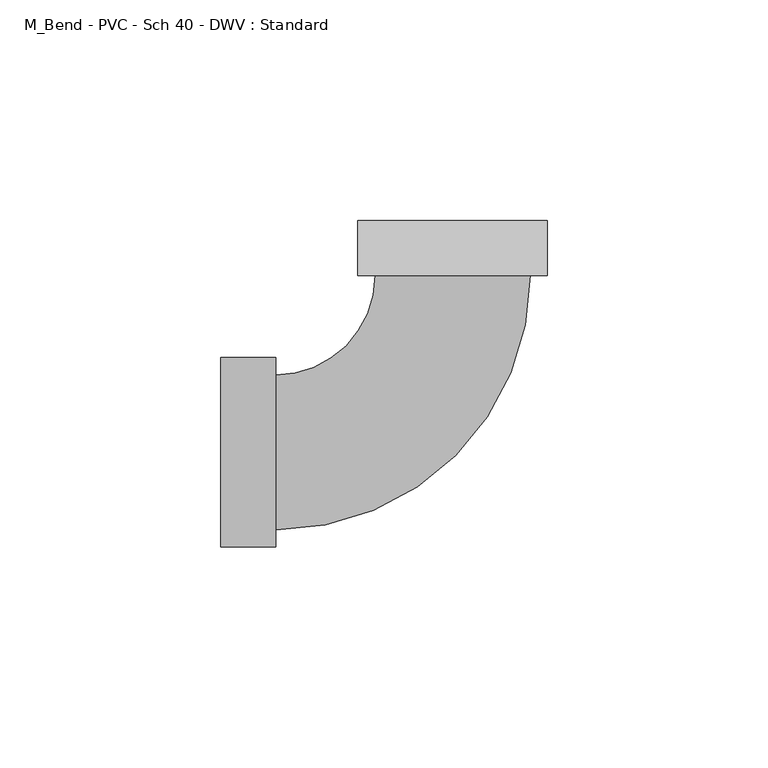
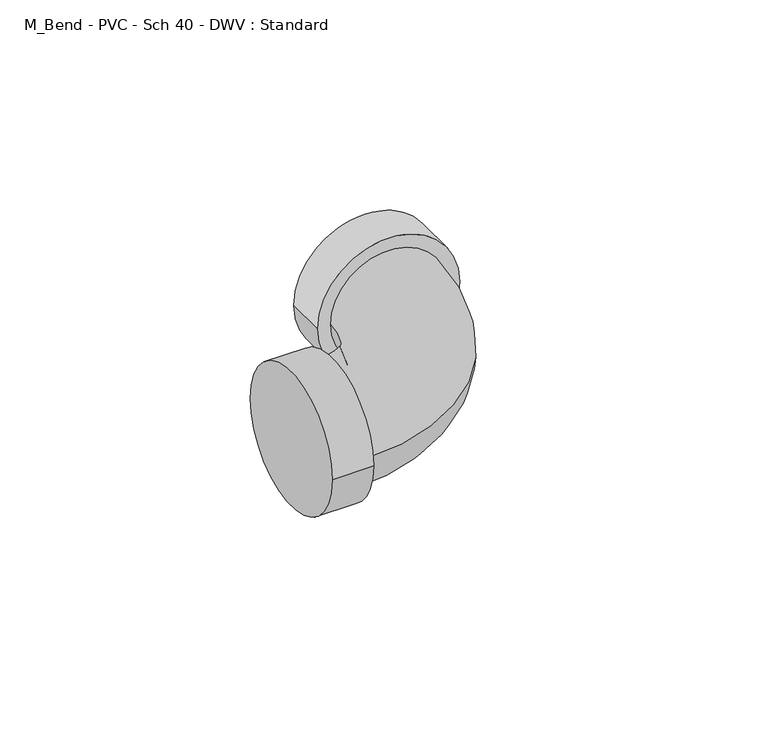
"""IFC4 building model written with IfcOpenShell, lengths in millimetres: pipe fitting geometry, M_Bend - PVC - Sch 40 - DWV : Standard."""

from ifc_helpers import new_model, si_unit, point, frame, origin, place, context, project, spatial, circle_curve, ellipse_curve, trimmed, source, transform, mapped, element, save
from ifc_brep_helpers import plane_surface, cylinder_surface, revolved_surface, advanced_brep


def m_bend_pvc_sch_40_dwv_standard_f7713f3f(model_context):
    return source(origin(), model_context, "Body", "AdvancedBrep", [
        advanced_brep(
        [(-52.6140625, -21.4871094, 0.0), (-52.6140625, 21.4871094, 0.0), (-40.1140625, -21.4871094, 0.0), (-40.1140625, 21.4871094, 0.0), (-40.1140625, -17.5640625, 0.0), (-40.1140625, 17.5640625, 0.0), (-17.5639173, 40.1141261, 0.0), (17.5642077, 40.1139989, 0.0), (21.4872546, 40.1139847, 0.0), (-21.4869642, 40.1141403, 0.0), (21.4872998, 52.6139847, 0.0), (-21.4869189, 52.6141403, 0.0)],
        [
            (0, 1, circle_curve(frame((-52.6140625, 0.0, 0.0), z_axis=(-1.0, 0.0, 0.0), x_axis=(0.0, 1.0, 0.0)), 21.4871094)),
            (1, 0, circle_curve(frame((-52.6140625, 0.0, 0.0), z_axis=(-1.0, 0.0, 0.0), x_axis=(0.0, 1.0, 0.0)), 21.4871094)),
            (2, 3, circle_curve(frame((-40.1140625, 0.0, 0.0), z_axis=(1.0, 0.0, 0.0), x_axis=(0.0, 1.0, 0.0)), 21.4871094)),
            (3, 2, circle_curve(frame((-40.1140625, 0.0, 0.0), z_axis=(1.0, 0.0, 0.0), x_axis=(0.0, 1.0, 0.0)), 21.4871094)),
            (4, 5, circle_curve(frame((-40.1140625, 0.0, 0.0), z_axis=(-1.0, 0.0, 0.0), x_axis=(0.0, 1.0, 0.0)), 17.5640625)),
            (5, 4, circle_curve(frame((-40.1140625, 0.0, 0.0), z_axis=(-1.0, 0.0, 0.0), x_axis=(0.0, 1.0, 0.0)), 17.5640625)),
            (0, 2),
            (3, 1),
            (6, 5, circle_curve(frame((-40.1140625, 40.1142077, 0.0), z_axis=(0.0, 0.0, -1.0), x_axis=(0.0, -1.0, 0.0)), 22.5501452)),
            (4, 7, circle_curve(frame((-40.1140625, 40.1142077, 0.0), z_axis=(0.0, 0.0, 1.0), x_axis=(0.0, -1.0, 0.0)), 57.6782702)),
            (7, 6, circle_curve(frame((0.0001452, 40.1140625, 0.0), z_axis=(-3.619557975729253e-06, -0.9999999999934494, 0.0), x_axis=(-0.9999999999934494, 3.619557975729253e-06, 0.0)), 17.5640625)),
            (6, 7, circle_curve(frame((0.0001452, 40.1140625, 0.0), z_axis=(-3.619557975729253e-06, -0.9999999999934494, 0.0), x_axis=(-0.9999999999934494, 3.619557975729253e-06, 0.0)), 17.5640625)),
            (8, 9, circle_curve(frame((0.0001452, 40.1140625, 0.0), z_axis=(-3.619557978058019e-06, -0.9999999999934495, 0.0), x_axis=(-0.9999999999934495, 3.619557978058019e-06, 0.0)), 21.4871094)),
            (9, 8, circle_curve(frame((0.0001452, 40.1140625, 0.0), z_axis=(-3.619557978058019e-06, -0.9999999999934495, 0.0), x_axis=(-0.9999999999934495, 3.619557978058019e-06, 0.0)), 21.4871094)),
            (10, 11, circle_curve(frame((0.0001904, 52.6140625, 0.0), z_axis=(3.619557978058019e-06, 0.9999999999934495, 0.0), x_axis=(-0.9999999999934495, 3.619557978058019e-06, 0.0)), 21.4871094)),
            (11, 10, circle_curve(frame((0.0001904, 52.6140625, 0.0), z_axis=(3.619557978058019e-06, 0.9999999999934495, 0.0), x_axis=(-0.9999999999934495, 3.619557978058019e-06, 0.0)), 21.4871094)),
            (8, 10),
            (11, 9),
        ],
        [
            plane_surface(frame((-52.6140625, 0.0, 0.0), z_axis=(-1.0, 0.0, 0.0), x_axis=(0.0, 0.0, 1.0))),
            plane_surface(frame((-40.1140625, 0.0, 0.0), z_axis=(1.0, 0.0, 0.0), x_axis=(0.0, 0.0, 1.0))),
            cylinder_surface(frame((-52.6140625, 0.0, 0.0), z_axis=(-1.0, 0.0, 0.0), x_axis=(0.0, 1.0, 0.0)), 21.4871094),
            revolved_surface(trimmed(ellipse_curve(frame((-40.1140625, 0.0, 0.0), z_axis=(-1.0, 0.0, 0.0), x_axis=(0.0, 1.0, 0.0)), 17.5640625, 17.5640625), [point((-40.1140625, -17.5640625, 0.0))], [point((-40.1140625, 17.5640625, 0.0))], True, "CARTESIAN"), (-40.1140625, 40.1142077, 0.0), (0.0, 0.0, 1.0)),
            revolved_surface(trimmed(ellipse_curve(frame((-40.1140625, 0.0, 0.0), z_axis=(-1.0, 0.0, 0.0), x_axis=(0.0, 1.0, 0.0)), 17.5640625, 17.5640625), [point((-40.1140625, 17.5640625, 0.0))], [point((-40.1140625, -17.5640625, 0.0))], True, "CARTESIAN"), (-40.1140625, 40.1142077, 0.0), (0.0, 0.0, 1.0)),
            plane_surface(frame((0.0001452, 40.1140625, 0.0), z_axis=(-3.619557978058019e-06, -0.9999999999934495, 0.0), x_axis=(0.0, 0.0, 1.0))),
            plane_surface(frame((0.0001904, 52.6140625, 0.0), z_axis=(3.619557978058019e-06, 0.9999999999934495, 0.0), x_axis=(0.0, 0.0, 1.0))),
            cylinder_surface(frame((0.0001452, 40.1140625, 0.0), z_axis=(-3.619557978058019e-06, -0.9999999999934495, 0.0), x_axis=(-0.9999999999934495, 3.619557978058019e-06, 0.0)), 21.4871094),
        ],
        [
            (0, [[1, 2]]),
            (1, [[3, 4], [5, 6]]),
            (2, [[-1, 7, -4, 8]]),
            (2, [[-2, -8, -3, -7]]),
            (3, [[9, -5, 10, 11]]),
            (4, [[-9, 12, -10, -6]]),
            (5, [[13, 14], [-11, -12]]),
            (6, [[15, 16]]),
            (7, [[-13, 17, -16, 18]]),
            (7, [[-14, -18, -15, -17]]),
        ],
    ),
    ])


if __name__ == "__main__":
    model = new_model("IFC4")
    model_context = context("Model", 3, world=origin())
    ifc_project = project(units=[si_unit("LENGTHUNIT", "METRE", prefix="MILLI")], contexts=[model_context])
    site = spatial("IfcSite", under=ifc_project)
    building = spatial("IfcBuilding", under=site)
    placement = place(None, origin())
    m_bend_pvc_sch_40_dwv_standard_shape = m_bend_pvc_sch_40_dwv_standard_f7713f3f(model_context)
    element("IfcPipeFitting", 1, ObjectType="M_Bend - PVC - Sch 40 - DWV : Standard", at=placement, inside=building, context=model_context, shape_type="MappedRepresentation", body=[
        mapped(m_bend_pvc_sch_40_dwv_standard_shape, transform((0.0, 0.0, 0.0), x_axis=(1.0, 0.0, 0.0), y_axis=(0.0, 1.0, 0.0), z_axis=(0.0, 0.0, 1.0))),
    ])
    save(model, "model.ifc")
